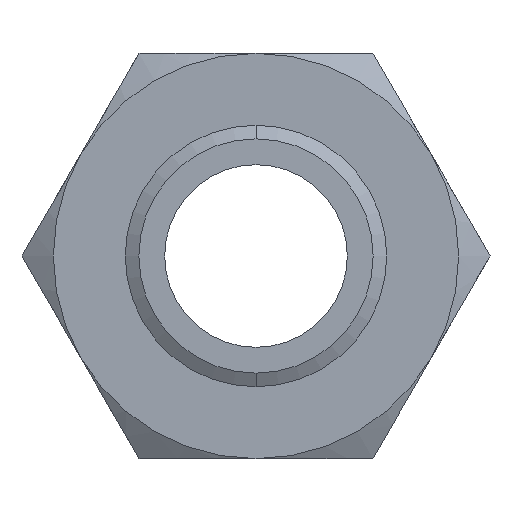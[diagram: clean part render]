
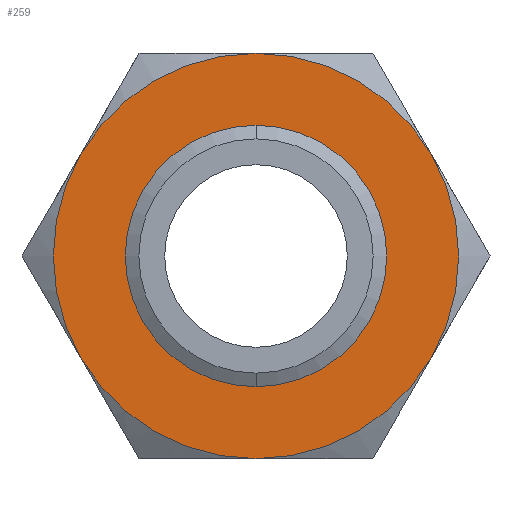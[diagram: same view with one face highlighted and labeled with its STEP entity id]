
A CAD part, front view. The second image highlights one B-rep face of the part: STEP entity #259.
In plain terms, the highlighted planar face has unit normal (0, -1, 0).
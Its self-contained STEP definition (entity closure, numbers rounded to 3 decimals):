
#193 = EDGE_CURVE ( 'NONE', #211, #226, #880, .T. ) ;
#194 = ORIENTED_EDGE ( 'NONE', *, *, #193, .F. ) ;
#211 = VERTEX_POINT ( 'NONE', #942 ) ;
#226 = VERTEX_POINT ( 'NONE', #1025 ) ;
#228 = EDGE_LOOP ( 'NONE', ( #258, #255, #250, #194, #230, #235 ) ) ;
#229 = EDGE_LOOP ( 'NONE', ( #231, #232 ) ) ;
#230 = ORIENTED_EDGE ( 'NONE', *, *, #237, .F. ) ;
#231 = ORIENTED_EDGE ( 'NONE', *, *, #2237, .F. ) ;
#232 = ORIENTED_EDGE ( 'NONE', *, *, #233, .F. ) ;
#233 = EDGE_CURVE ( 'NONE', #2222, #2223, #1020, .T. ) ;
#234 = VERTEX_POINT ( 'NONE', #1021 ) ;
#235 = ORIENTED_EDGE ( 'NONE', *, *, #236, .F. ) ;
#236 = EDGE_CURVE ( 'NONE', #254, #234, #1015, .T. ) ;
#237 = EDGE_CURVE ( 'NONE', #234, #211, #1010, .T. ) ;
#250 = ORIENTED_EDGE ( 'NONE', *, *, #253, .F. ) ;
#251 = VERTEX_POINT ( 'NONE', #1043 ) ;
#252 = EDGE_CURVE ( 'NONE', #256, #251, #1042, .T. ) ;
#253 = EDGE_CURVE ( 'NONE', #226, #256, #1036, .T. ) ;
#254 = VERTEX_POINT ( 'NONE', #1037 ) ;
#255 = ORIENTED_EDGE ( 'NONE', *, *, #252, .F. ) ;
#256 = VERTEX_POINT ( 'NONE', #1094 ) ;
#257 = EDGE_CURVE ( 'NONE', #251, #254, #1093, .T. ) ;
#258 = ORIENTED_EDGE ( 'NONE', *, *, #257, .F. ) ;
#259 = ADVANCED_FACE ( 'NONE', ( #1088, #1087 ), #1086, .F. ) ;
#880 = CIRCLE ( 'NONE', #932, 77.5 ) ;
#882 = CARTESIAN_POINT ( 'NONE',  ( 0., 0., 0. ) ) ;
#930 = DIRECTION ( 'NONE',  ( 0., 0., 1. ) ) ;
#931 = DIRECTION ( 'NONE',  ( 0., 1., 0. ) ) ;
#932 = AXIS2_PLACEMENT_3D ( 'NONE', #882, #931, #930 ) ;
#942 = CARTESIAN_POINT ( 'NONE',  ( 0., 0., -77.5 ) ) ;
#1006 = DIRECTION ( 'NONE',  ( 0., 0., 1. ) ) ;
#1007 = DIRECTION ( 'NONE',  ( 0., 1., 0. ) ) ;
#1008 = CARTESIAN_POINT ( 'NONE',  ( 0., 0., 0. ) ) ;
#1009 = AXIS2_PLACEMENT_3D ( 'NONE', #1008, #1007, #1006 ) ;
#1010 = CIRCLE ( 'NONE', #1009, 77.5 ) ;
#1011 = DIRECTION ( 'NONE',  ( 0., 0., 1. ) ) ;
#1012 = DIRECTION ( 'NONE',  ( 0., 1., 0. ) ) ;
#1013 = CARTESIAN_POINT ( 'NONE',  ( 0., 0., 0. ) ) ;
#1014 = AXIS2_PLACEMENT_3D ( 'NONE', #1013, #1012, #1011 ) ;
#1015 = CIRCLE ( 'NONE', #1014, 77.5 ) ;
#1016 = DIRECTION ( 'NONE',  ( 0., 0., -1. ) ) ;
#1017 = DIRECTION ( 'NONE',  ( 0., -1., 0. ) ) ;
#1018 = CARTESIAN_POINT ( 'NONE',  ( 0., 0., 0. ) ) ;
#1019 = AXIS2_PLACEMENT_3D ( 'NONE', #1018, #1017, #1016 ) ;
#1020 = CIRCLE ( 'NONE', #1019, 44.804 ) ;
#1021 = CARTESIAN_POINT ( 'NONE',  ( 67.117, 0., -38.75 ) ) ;
#1025 = CARTESIAN_POINT ( 'NONE',  ( -67.117, 0., -38.75 ) ) ;
#1033 = DIRECTION ( 'NONE',  ( 0., 1., 0. ) ) ;
#1034 = CARTESIAN_POINT ( 'NONE',  ( 0., 0., 0. ) ) ;
#1035 = AXIS2_PLACEMENT_3D ( 'NONE', #1034, #1033, #1095 ) ;
#1036 = CIRCLE ( 'NONE', #1035, 77.5 ) ;
#1037 = CARTESIAN_POINT ( 'NONE',  ( 67.117, 0., 38.75 ) ) ;
#1038 = DIRECTION ( 'NONE',  ( 0., 0., 1. ) ) ;
#1039 = DIRECTION ( 'NONE',  ( 0., 1., 0. ) ) ;
#1040 = CARTESIAN_POINT ( 'NONE',  ( 0., 0., 0. ) ) ;
#1041 = AXIS2_PLACEMENT_3D ( 'NONE', #1040, #1039, #1038 ) ;
#1042 = CIRCLE ( 'NONE', #1041, 77.5 ) ;
#1043 = CARTESIAN_POINT ( 'NONE',  ( 0., 0., 77.5 ) ) ;
#1082 = DIRECTION ( 'NONE',  ( 0., 0., 1. ) ) ;
#1083 = DIRECTION ( 'NONE',  ( 0., 1., 0. ) ) ;
#1084 = CARTESIAN_POINT ( 'NONE',  ( 44.745, 0., -77.5 ) ) ;
#1085 = AXIS2_PLACEMENT_3D ( 'NONE', #1084, #1083, #1082 ) ;
#1086 = PLANE ( 'NONE',  #1085 ) ;
#1087 = FACE_BOUND ( 'NONE', #229, .T. ) ;
#1088 = FACE_OUTER_BOUND ( 'NONE', #228, .T. ) ;
#1089 = DIRECTION ( 'NONE',  ( 0., 0., 1. ) ) ;
#1090 = DIRECTION ( 'NONE',  ( 0., 1., 0. ) ) ;
#1091 = CARTESIAN_POINT ( 'NONE',  ( 0., 0., 0. ) ) ;
#1092 = AXIS2_PLACEMENT_3D ( 'NONE', #1091, #1090, #1089 ) ;
#1093 = CIRCLE ( 'NONE', #1092, 77.5 ) ;
#1094 = CARTESIAN_POINT ( 'NONE',  ( -67.117, 0., 38.75 ) ) ;
#1095 = DIRECTION ( 'NONE',  ( 0., 0., 1. ) ) ;
#1652 = DIRECTION ( 'NONE',  ( 0., -1., 0. ) ) ;
#1653 = CARTESIAN_POINT ( 'NONE',  ( 0., 0., 0. ) ) ;
#1654 = AXIS2_PLACEMENT_3D ( 'NONE', #1653, #1652, #1711 ) ;
#1655 = CIRCLE ( 'NONE', #1654, 44.804 ) ;
#1675 = CARTESIAN_POINT ( 'NONE',  ( 0., 0., -44.804 ) ) ;
#1676 = CARTESIAN_POINT ( 'NONE',  ( 0., 0., 44.804 ) ) ;
#1711 = DIRECTION ( 'NONE',  ( 0., 0., -1. ) ) ;
#2222 = VERTEX_POINT ( 'NONE', #1676 ) ;
#2223 = VERTEX_POINT ( 'NONE', #1675 ) ;
#2237 = EDGE_CURVE ( 'NONE', #2223, #2222, #1655, .T. ) ;
